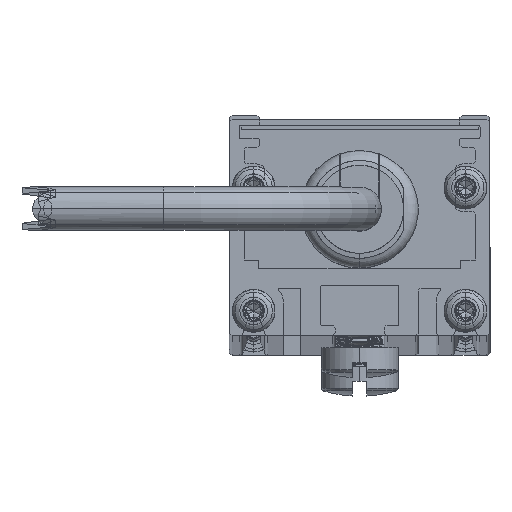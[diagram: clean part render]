
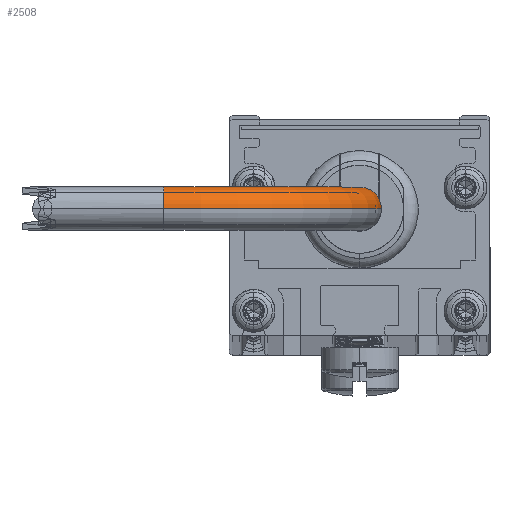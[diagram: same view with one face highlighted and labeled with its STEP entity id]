
A CAD part, top view. The second image highlights one B-rep face of the part: STEP entity #2508.
In plain terms, the highlighted toroidal (fillet/blend) face has major radius 25.4 mm and minor radius 2.845 mm.
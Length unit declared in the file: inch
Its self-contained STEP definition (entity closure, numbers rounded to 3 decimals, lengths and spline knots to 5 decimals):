
#57 = CARTESIAN_POINT ( 'NONE',  ( 0., 0., -1. ) ) ;
#243 = CARTESIAN_POINT ( 'NONE',  ( 0.112, 0., -1. ) ) ;
#761 = ORIENTED_EDGE ( 'NONE', *, *, #16878, .F. ) ;
#908 = EDGE_LOOP ( 'NONE', ( #2654, #761, #4152, #9974 ) ) ;
#2090 = CIRCLE ( 'NONE', #18196, 0.888 ) ;
#2149 = DIRECTION ( 'NONE',  ( 1., 0., 0. ) ) ;
#2192 = AXIS2_PLACEMENT_3D ( 'NONE', #12575, #11354, #7938 ) ;
#2508 = ADVANCED_FACE ( 'NONE', ( #10716 ), #7350, .T. ) ;
#2654 = ORIENTED_EDGE ( 'NONE', *, *, #2867, .F. ) ;
#2867 = EDGE_CURVE ( 'NONE', #17311, #10373, #13454, .T. ) ;
#3097 = CARTESIAN_POINT ( 'NONE',  ( 1., 0., -1. ) ) ;
#4152 = ORIENTED_EDGE ( 'NONE', *, *, #11112, .T. ) ;
#5990 = DIRECTION ( 'NONE',  ( 0., -1., 0. ) ) ;
#6456 = VERTEX_POINT ( 'NONE', #243 ) ;
#7335 = CARTESIAN_POINT ( 'NONE',  ( 1., 0., -2.112 ) ) ;
#7350 = TOROIDAL_SURFACE ( 'NONE', #10492, 1., 0.112 ) ;
#7731 = DIRECTION ( 'NONE',  ( 0., -1., 0. ) ) ;
#7938 = DIRECTION ( 'NONE',  ( 0., 0., 1. ) ) ;
#8316 = CARTESIAN_POINT ( 'NONE',  ( 1., 0., -1.888 ) ) ;
#8554 = DIRECTION ( 'NONE',  ( 0., 0., 1. ) ) ;
#9931 = CARTESIAN_POINT ( 'NONE',  ( -0.112, 0., -1. ) ) ;
#9974 = ORIENTED_EDGE ( 'NONE', *, *, #11920, .T. ) ;
#10373 = VERTEX_POINT ( 'NONE', #7335 ) ;
#10492 = AXIS2_PLACEMENT_3D ( 'NONE', #13777, #13905, #16674 ) ;
#10625 = AXIS2_PLACEMENT_3D ( 'NONE', #57, #8554, #14433 ) ;
#10716 = FACE_OUTER_BOUND ( 'NONE', #908, .T. ) ;
#11112 = EDGE_CURVE ( 'NONE', #6456, #12409, #2090, .T. ) ;
#11117 = CIRCLE ( 'NONE', #10625, 0.112 ) ;
#11354 = DIRECTION ( 'NONE',  ( -1., 0., 0. ) ) ;
#11910 = DIRECTION ( 'NONE',  ( 1., 0., 0. ) ) ;
#11920 = EDGE_CURVE ( 'NONE', #12409, #10373, #14908, .T. ) ;
#12409 = VERTEX_POINT ( 'NONE', #8316 ) ;
#12575 = CARTESIAN_POINT ( 'NONE',  ( 1., 0., -2. ) ) ;
#13454 = CIRCLE ( 'NONE', #16970, 1.112 ) ;
#13777 = CARTESIAN_POINT ( 'NONE',  ( 1., 0., -1. ) ) ;
#13905 = DIRECTION ( 'NONE',  ( 0., -1., 0. ) ) ;
#14433 = DIRECTION ( 'NONE',  ( 1., 0., 0. ) ) ;
#14908 = CIRCLE ( 'NONE', #2192, 0.112 ) ;
#16433 = CARTESIAN_POINT ( 'NONE',  ( 1., 0., -1. ) ) ;
#16674 = DIRECTION ( 'NONE',  ( 0., 0., -1. ) ) ;
#16878 = EDGE_CURVE ( 'NONE', #6456, #17311, #11117, .T. ) ;
#16970 = AXIS2_PLACEMENT_3D ( 'NONE', #16433, #7731, #11910 ) ;
#17311 = VERTEX_POINT ( 'NONE', #9931 ) ;
#18196 = AXIS2_PLACEMENT_3D ( 'NONE', #3097, #5990, #2149 ) ;
